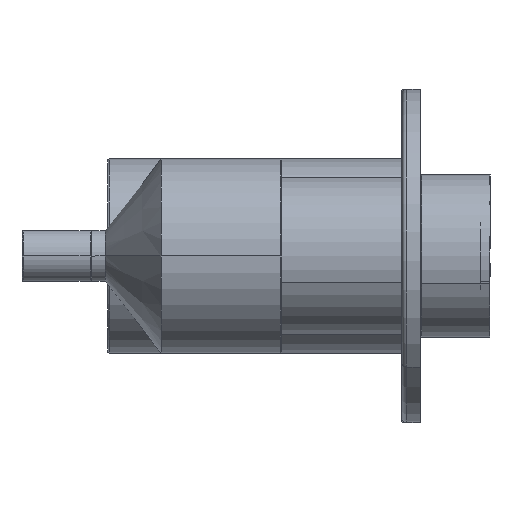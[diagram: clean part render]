
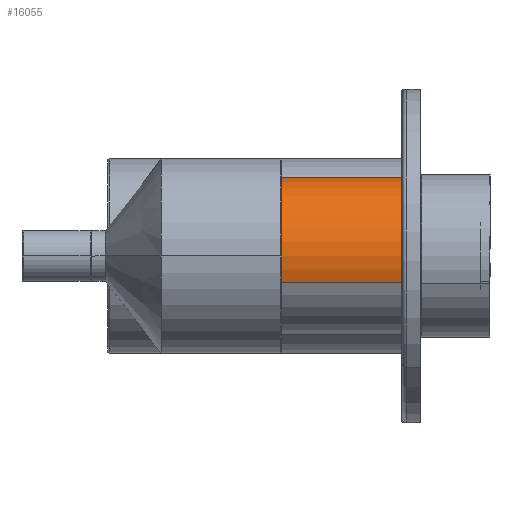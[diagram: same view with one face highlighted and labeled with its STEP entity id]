
A CAD part, left-side view. The second image highlights one B-rep face of the part: STEP entity #16055.
In plain terms, the highlighted cylindrical face has radius 17 mm (diameter 34 mm), a partial arc.
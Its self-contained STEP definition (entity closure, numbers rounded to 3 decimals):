
#871 = CYLINDRICAL_SURFACE ( 'NONE', #17360, 17. ) ;
#952 = DIRECTION ( 'NONE',  ( 0., 0., -1. ) ) ;
#1034 = CARTESIAN_POINT ( 'NONE',  ( 0., 0., 65. ) ) ;
#1128 = LINE ( 'NONE', #17930, #2064 ) ;
#1323 = ORIENTED_EDGE ( 'NONE', *, *, #8116, .T. ) ;
#1342 = CARTESIAN_POINT ( 'NONE',  ( -17., 0., 64.7 ) ) ;
#1563 = CARTESIAN_POINT ( 'NONE',  ( -17., 0., 65. ) ) ;
#1864 = ORIENTED_EDGE ( 'NONE', *, *, #13942, .F. ) ;
#2064 = VECTOR ( 'NONE', #7903, 1000. ) ;
#2387 = FACE_OUTER_BOUND ( 'NONE', #7384, .T. ) ;
#2860 = CIRCLE ( 'NONE', #3727, 17. ) ;
#3376 = VERTEX_POINT ( 'NONE', #1342 ) ;
#3572 = DIRECTION ( 'NONE',  ( -1., 0., 0. ) ) ;
#3727 = AXIS2_PLACEMENT_3D ( 'NONE', #9303, #12410, #5176 ) ;
#4636 = CARTESIAN_POINT ( 'NONE',  ( 17., 0., 64.7 ) ) ;
#5176 = DIRECTION ( 'NONE',  ( 1., 0., 0. ) ) ;
#5266 = DIRECTION ( 'NONE',  ( 0., 0., -1. ) ) ;
#6089 = AXIS2_PLACEMENT_3D ( 'NONE', #6787, #5266, #9585 ) ;
#6401 = CARTESIAN_POINT ( 'NONE',  ( 17., 0., 15. ) ) ;
#6751 = ORIENTED_EDGE ( 'NONE', *, *, #8369, .T. ) ;
#6787 = CARTESIAN_POINT ( 'NONE',  ( 0., 0., 64.7 ) ) ;
#7384 = EDGE_LOOP ( 'NONE', ( #1864, #14020, #1323, #6751 ) ) ;
#7903 = DIRECTION ( 'NONE',  ( 0., 0., -1. ) ) ;
#8116 = EDGE_CURVE ( 'NONE', #3376, #11546, #8587, .T. ) ;
#8366 = CARTESIAN_POINT ( 'NONE',  ( -17., 0., 15. ) ) ;
#8369 = EDGE_CURVE ( 'NONE', #11546, #13043, #2860, .T. ) ;
#8587 = LINE ( 'NONE', #1563, #11520 ) ;
#9303 = CARTESIAN_POINT ( 'NONE',  ( 0., 0., 15. ) ) ;
#9585 = DIRECTION ( 'NONE',  ( 1., 0., 0. ) ) ;
#11520 = VECTOR ( 'NONE', #15634, 1000. ) ;
#11546 = VERTEX_POINT ( 'NONE', #8366 ) ;
#12410 = DIRECTION ( 'NONE',  ( 0., 0., 1. ) ) ;
#13043 = VERTEX_POINT ( 'NONE', #6401 ) ;
#13888 = CIRCLE ( 'NONE', #6089, 17. ) ;
#13942 = EDGE_CURVE ( 'NONE', #14888, #13043, #1128, .T. ) ;
#14020 = ORIENTED_EDGE ( 'NONE', *, *, #14802, .T. ) ;
#14802 = EDGE_CURVE ( 'NONE', #14888, #3376, #13888, .T. ) ;
#14888 = VERTEX_POINT ( 'NONE', #4636 ) ;
#15634 = DIRECTION ( 'NONE',  ( 0., 0., -1. ) ) ;
#16055 = ADVANCED_FACE ( 'NONE', ( #2387 ), #871, .T. ) ;
#17360 = AXIS2_PLACEMENT_3D ( 'NONE', #1034, #952, #3572 ) ;
#17930 = CARTESIAN_POINT ( 'NONE',  ( 17., 0., 65. ) ) ;
